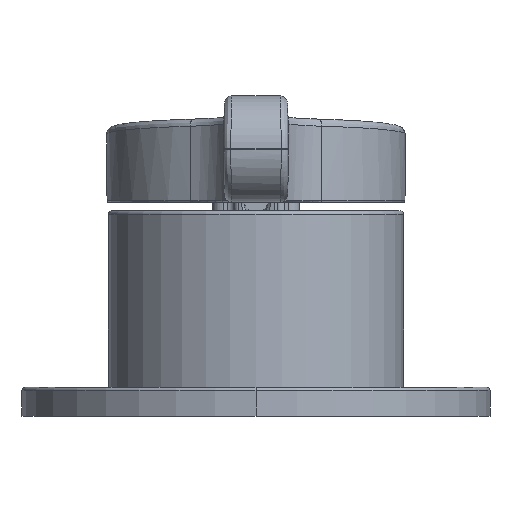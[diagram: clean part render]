
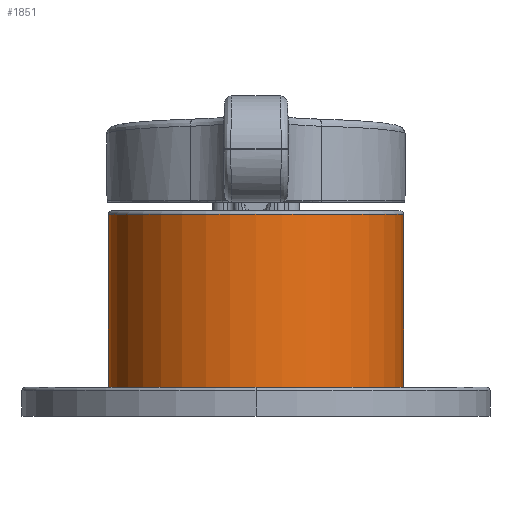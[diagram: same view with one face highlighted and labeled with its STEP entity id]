
A CAD part, front view. The second image highlights one B-rep face of the part: STEP entity #1851.
In plain terms, the highlighted cylindrical face has radius 20.5 mm (diameter 41 mm), a partial arc.
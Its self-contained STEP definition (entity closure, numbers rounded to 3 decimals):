
#24=DIRECTION('',(0.,0.,1.));
#25=VECTOR('',#24,24.);
#26=CARTESIAN_POINT('',(20.5,0.,4.));
#27=LINE('',#26,#25);
#33=DIRECTION('',(0.,0.,-1.));
#34=VECTOR('',#33,24.);
#35=CARTESIAN_POINT('',(-20.5,0.,28.));
#36=LINE('',#35,#34);
#47=CARTESIAN_POINT('',(0.,0.,4.));
#48=DIRECTION('',(0.,0.,-1.));
#49=DIRECTION('',(1.,0.,0.));
#50=AXIS2_PLACEMENT_3D('',#47,#48,#49);
#52=CARTESIAN_POINT('',(0.,0.,28.));
#53=DIRECTION('',(0.,0.,1.));
#54=DIRECTION('',(-1.,0.,0.));
#55=AXIS2_PLACEMENT_3D('',#52,#53,#54);
#1604=CARTESIAN_POINT('',(20.5,0.,28.));
#1605=CARTESIAN_POINT('',(-20.5,0.,28.));
#1606=VERTEX_POINT('',#1604);
#1607=VERTEX_POINT('',#1605);
#1660=CARTESIAN_POINT('',(-20.5,0.,4.));
#1661=CARTESIAN_POINT('',(20.5,0.,4.));
#1662=VERTEX_POINT('',#1660);
#1663=VERTEX_POINT('',#1661);
#1839=CARTESIAN_POINT('',(0.,0.,19.15));
#1840=DIRECTION('',(0.,0.,-1.));
#1841=DIRECTION('',(1.,0.,0.));
#1842=AXIS2_PLACEMENT_3D('',#1839,#1840,#1841);
#1843=CYLINDRICAL_SURFACE('',#1842,20.5);
#1844=ORIENTED_EDGE('',*,*,#1827,.T.);
#1845=ORIENTED_EDGE('',*,*,#1803,.F.);
#1847=ORIENTED_EDGE('',*,*,#1846,.T.);
#1848=ORIENTED_EDGE('',*,*,#1799,.F.);
#1849=EDGE_LOOP('',(#1844,#1845,#1847,#1848));
#1850=FACE_OUTER_BOUND('',#1849,.F.);
#51=CIRCLE('',#50,20.5);
#56=CIRCLE('',#55,20.5);
#1799=EDGE_CURVE('',#1663,#1606,#27,.T.);
#1803=EDGE_CURVE('',#1607,#1662,#36,.T.);
#1827=EDGE_CURVE('',#1663,#1662,#51,.T.);
#1846=EDGE_CURVE('',#1607,#1606,#56,.T.);
#1851=ADVANCED_FACE('',(#1850),#1843,.T.);
